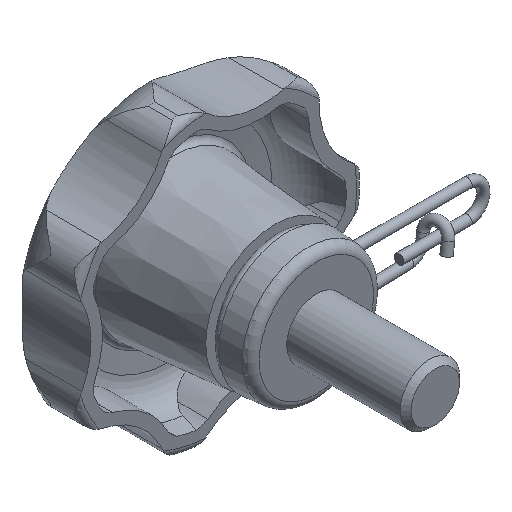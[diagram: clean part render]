
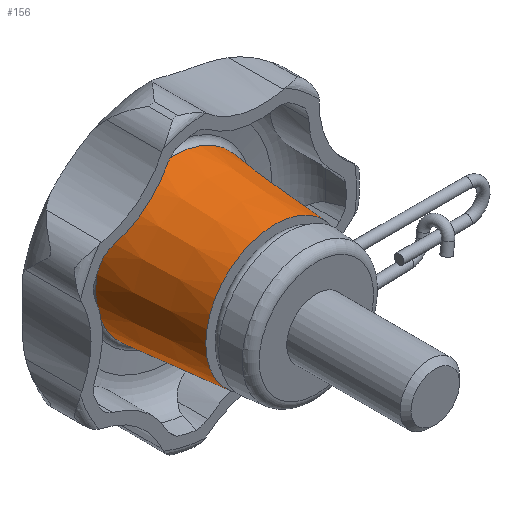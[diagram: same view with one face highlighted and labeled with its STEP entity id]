
A CAD part, isometric view. The second image highlights one B-rep face of the part: STEP entity #156.
In plain terms, the highlighted conical face has half-angle 5 degrees and reference radius 13.109 mm.
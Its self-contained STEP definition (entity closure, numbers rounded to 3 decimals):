
#156 = ADVANCED_FACE( '', ( #356, #357 ), #358, .T. );
#356 = FACE_BOUND( '', #571, .T. );
#357 = FACE_OUTER_BOUND( '', #572, .T. );
#358 = CONICAL_SURFACE( '', #573, 13.109, 0.087 );
#571 = EDGE_LOOP( '', ( #1188 ) );
#572 = EDGE_LOOP( '', ( #1189 ) );
#573 = AXIS2_PLACEMENT_3D( '', #1190, #1191, #1192 );
#1188 = ORIENTED_EDGE( '', *, *, #1529, .F. );
#1189 = ORIENTED_EDGE( '', *, *, #1528, .T. );
#1190 = CARTESIAN_POINT( '', ( 0., 24.053, 0. ) );
#1191 = DIRECTION( '', ( 0., 1., 0. ) );
#1192 = DIRECTION( '', ( 0., 0., 1. ) );
#1528 = EDGE_CURVE( '', #1895, #1895, #1896, .T. );
#1529 = EDGE_CURVE( '', #1897, #1897, #1898, .T. );
#1895 = VERTEX_POINT( '', #3204 );
#1896 = CIRCLE( '', #3205, 13.109 );
#1897 = VERTEX_POINT( '', #3206 );
#1898 = CIRCLE( '', #3207, 11.617 );
#3204 = CARTESIAN_POINT( '', ( 0., 24.053, -13.109 ) );
#3205 = AXIS2_PLACEMENT_3D( '', #3555, #3556, #3557 );
#3206 = CARTESIAN_POINT( '', ( 0., 7., -11.617 ) );
#3207 = AXIS2_PLACEMENT_3D( '', #3558, #3559, #3560 );
#3555 = CARTESIAN_POINT( '', ( 0., 24.053, 0. ) );
#3556 = DIRECTION( '', ( 0., -1., 0. ) );
#3557 = DIRECTION( '', ( 0., 0., -1. ) );
#3558 = CARTESIAN_POINT( '', ( 0., 7., 0. ) );
#3559 = DIRECTION( '', ( 0., -1., 0. ) );
#3560 = DIRECTION( '', ( 0., 0., -1. ) );
